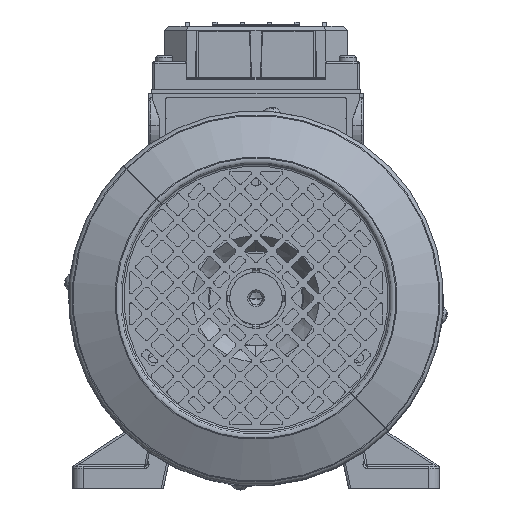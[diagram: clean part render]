
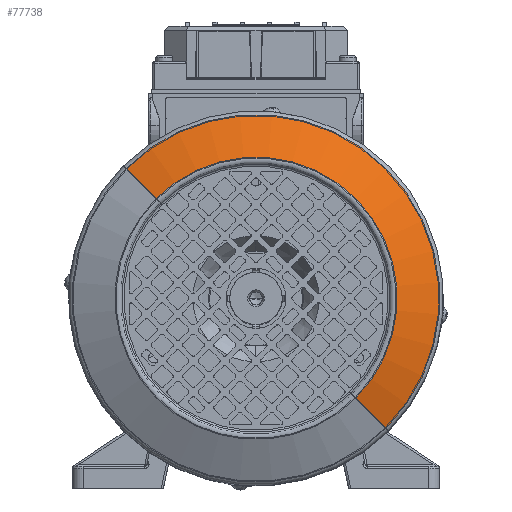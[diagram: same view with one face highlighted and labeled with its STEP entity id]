
A CAD part, top view. The second image highlights one B-rep face of the part: STEP entity #77738.
In plain terms, the highlighted conical face has half-angle 64 degrees and reference radius 87.315 mm.
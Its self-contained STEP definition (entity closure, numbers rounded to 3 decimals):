
#1302 = EDGE_CURVE ( 'NONE', #76985, #56134, #83322, .T. ) ;
#8656 = DIRECTION ( 'NONE',  ( -1., 0., 0. ) ) ;
#8932 = VERTEX_POINT ( 'NONE', #48071 ) ;
#13765 = ORIENTED_EDGE ( 'NONE', *, *, #111435, .T. ) ;
#15578 = EDGE_CURVE ( 'NONE', #8932, #54093, #58514, .T. ) ;
#17615 = AXIS2_PLACEMENT_3D ( 'NONE', #92491, #28350, #103328 ) ;
#20087 = DIRECTION ( 'NONE',  ( 0., 1., 0. ) ) ;
#20936 = VECTOR ( 'NONE', #70232, 1000. ) ;
#24311 = LINE ( 'NONE', #59508, #20936 ) ;
#27956 = ORIENTED_EDGE ( 'NONE', *, *, #15578, .T. ) ;
#28350 = DIRECTION ( 'NONE',  ( 0., 1., 0. ) ) ;
#37932 = CARTESIAN_POINT ( 'NONE',  ( -87.315, 10.139, 0. ) ) ;
#41955 = DIRECTION ( 'NONE',  ( -0.899, 0.438, 0. ) ) ;
#48071 = CARTESIAN_POINT ( 'NONE',  ( -67.045, 0.253, 0. ) ) ;
#48364 = CARTESIAN_POINT ( 'NONE',  ( 87.315, 10.139, 0. ) ) ;
#51285 = CARTESIAN_POINT ( 'NONE',  ( 0., 10.139, 0. ) ) ;
#54093 = VERTEX_POINT ( 'NONE', #132973 ) ;
#56134 = VERTEX_POINT ( 'NONE', #48364 ) ;
#57944 = VECTOR ( 'NONE', #41955, 1000. ) ;
#58514 = CIRCLE ( 'NONE', #17615, 67.045 ) ;
#59508 = CARTESIAN_POINT ( 'NONE',  ( 87.315, 10.139, 0. ) ) ;
#63863 = ORIENTED_EDGE ( 'NONE', *, *, #1302, .F. ) ;
#70232 = DIRECTION ( 'NONE',  ( 0.899, 0.438, 0. ) ) ;
#76985 = VERTEX_POINT ( 'NONE', #37932 ) ;
#77738 = ADVANCED_FACE ( 'NONE', ( #113824 ), #139040, .T. ) ;
#82355 = EDGE_LOOP ( 'NONE', ( #27956, #13765, #63863, #98390 ) ) ;
#83322 = CIRCLE ( 'NONE', #132449, 87.315 ) ;
#84240 = CARTESIAN_POINT ( 'NONE',  ( 0., 10.139, 0. ) ) ;
#86337 = LINE ( 'NONE', #106198, #57944 ) ;
#92491 = CARTESIAN_POINT ( 'NONE',  ( 0., 0.253, 0. ) ) ;
#95026 = DIRECTION ( 'NONE',  ( -1., 0., 0. ) ) ;
#98390 = ORIENTED_EDGE ( 'NONE', *, *, #135018, .F. ) ;
#103328 = DIRECTION ( 'NONE',  ( -1., 0., 0. ) ) ;
#106198 = CARTESIAN_POINT ( 'NONE',  ( -87.315, 10.139, 0. ) ) ;
#111435 = EDGE_CURVE ( 'NONE', #54093, #56134, #24311, .T. ) ;
#113824 = FACE_OUTER_BOUND ( 'NONE', #82355, .T. ) ;
#115495 = AXIS2_PLACEMENT_3D ( 'NONE', #51285, #137153, #8656 ) ;
#132449 = AXIS2_PLACEMENT_3D ( 'NONE', #84240, #20087, #95026 ) ;
#132973 = CARTESIAN_POINT ( 'NONE',  ( 67.045, 0.253, 0. ) ) ;
#135018 = EDGE_CURVE ( 'NONE', #8932, #76985, #86337, .T. ) ;
#137153 = DIRECTION ( 'NONE',  ( 0., 1., 0. ) ) ;
#139040 = CONICAL_SURFACE ( 'NONE', #115495, 87.315, 1.117 ) ;
